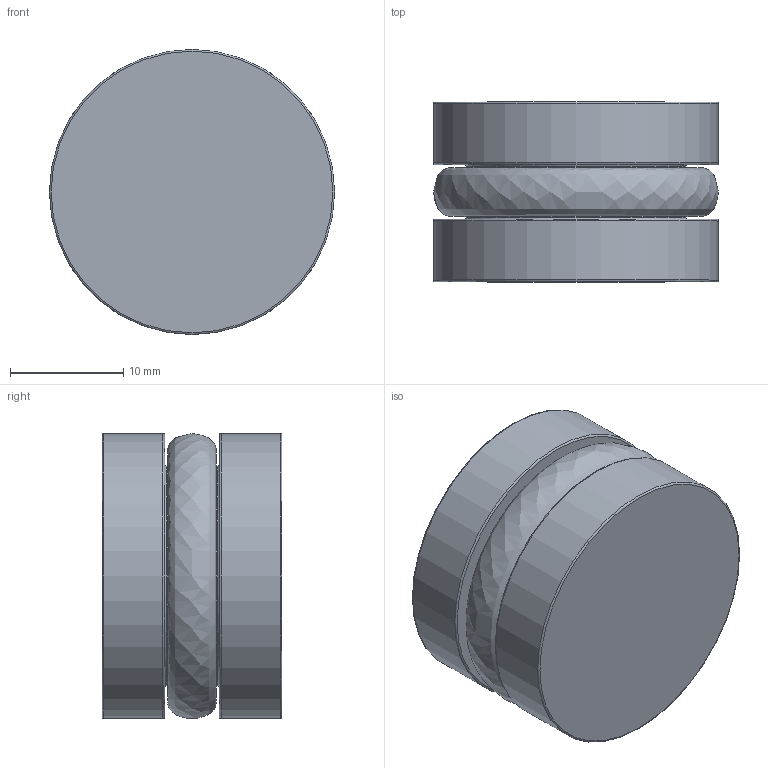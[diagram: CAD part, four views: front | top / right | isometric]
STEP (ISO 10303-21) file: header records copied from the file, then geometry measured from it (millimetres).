
FILE_DESCRIPTION(/* description */ (''),/* implementation_level */ '2;1');
FILE_NAME(/* name */ 'C:/Users/drich/Desktop/OR-1000 v1.step',/* time_stamp */ '2019-12-29T16:46:35-06:00',/* author */ (''),/* organization */ (''),/* preprocessor_version */ 'ST-DEVELOPER v18',/* originating_system */ 'Autodesk Translation Framework v8.12.0.6',/* authorisation */ '');
FILE_SCHEMA (('AUTOMOTIVE_DESIGN { 1 0 10303 214 3 1 1 }'));
Length unit declared in the file: inch
Products named in the file (1): OR-1000
Bounding box: 25.2 x 15.88 x 25.2 mm (x, y, z)
Volume: 7322.8 mm3; surface area: 3469 mm2
Topology: 2 solids, 2 shells, 17 faces, 45 edges, 32 vertices
Faces by surface type: torus 6, cylinder 4, plane 4, cone 2, bspline 1
Full cylindrical faces by diameter (mm): 7.976 x1, 19.431 x1, 25.197 x2
Entity records: 681 total; most frequent: CARTESIAN_POINT 174, DIRECTION 116, ORIENTED_EDGE 88, AXIS2_PLACEMENT_3D 55, EDGE_CURVE 44, CIRCLE 37, VERTEX_POINT 32, EDGE_LOOP 20
